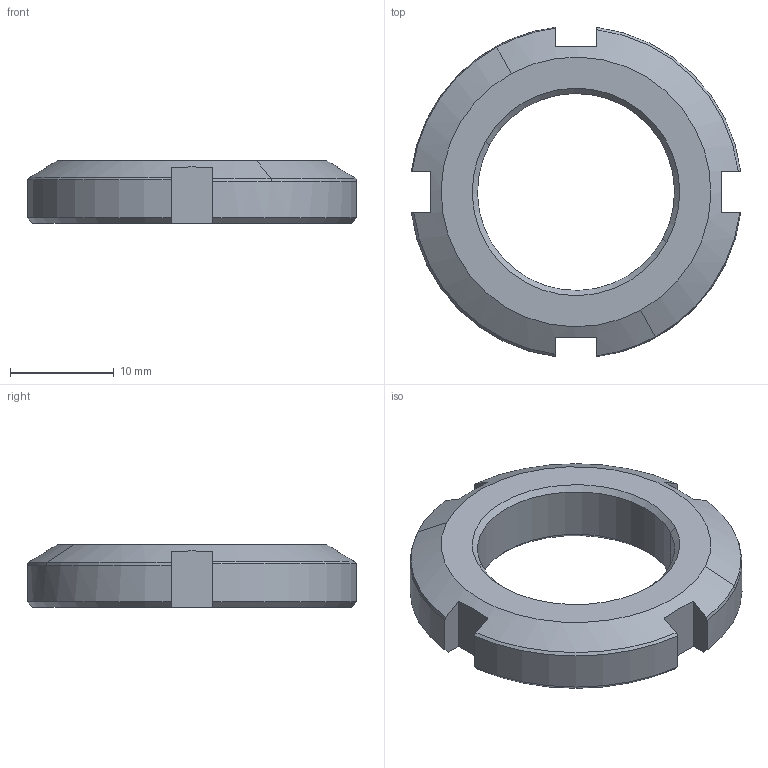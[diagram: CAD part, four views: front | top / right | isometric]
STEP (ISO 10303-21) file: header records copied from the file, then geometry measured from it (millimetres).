
FILE_DESCRIPTION(('CATIA V5 STEP Exchange'),'2;1');
FILE_NAME('\\Kjf-102\kjf_tc\Hydraulic_Clamp\Standard\Mounting Base Accessories\MBR\MBR-2006_-\MBR-2006_-_.stp','2026-08-10T02:02:53+00:00',('none'),('none'),'CATIA Version 5 Release 19 SP 6 (IN-10)','CATIA V5 STEP AP203','none');
FILE_SCHEMA(('CONFIG_CONTROL_DESIGN'));
Length unit declared in the file: millimetre
Products named in the file (1): MBR-2006_-
Bounding box: 31.75 x 31.75 x 6 mm (x, y, z)
Volume: 2701.4 mm3; surface area: 1829.5 mm2
Topology: 1 solids, 1 shells, 36 faces, 96 edges, 62 vertices
Faces by surface type: cone 16, plane 14, cylinder 6
Entity records: 1181 total; most frequent: CARTESIAN_POINT 314, ORIENTED_EDGE 192, DIRECTION 130, EDGE_CURVE 96, AXIS2_PLACEMENT_3D 62, VERTEX_POINT 62, VECTOR 38, EDGE_LOOP 38
